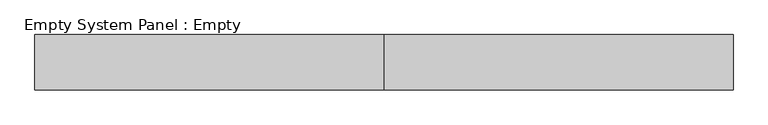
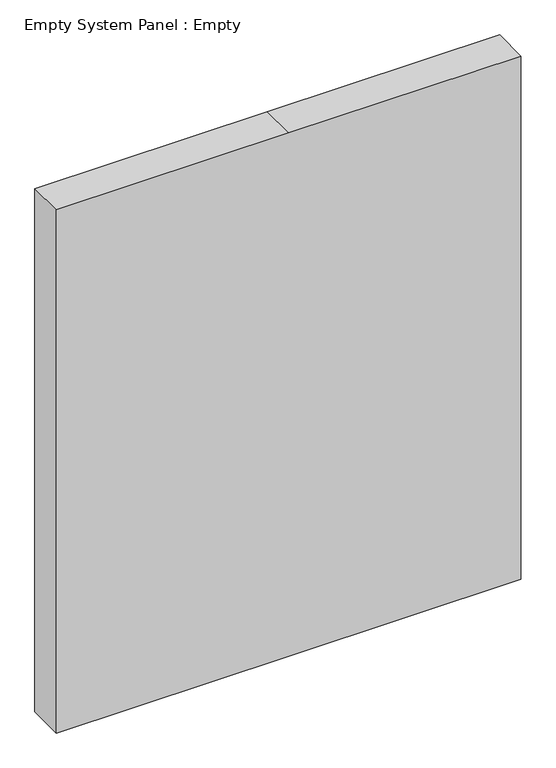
"""IFC4 building model written with IfcOpenShell, lengths in millimetres: plate geometry, Empty System Panel : Empty."""

from ifc_helpers import new_model, si_unit, frame, origin, place, context, project, spatial, polyline, outline, extrude, source, transform, mapped, element, save


def empty_system_panel_empty_d80a8f59(model_context):
    return source(origin(), model_context, "Body", "SweptSolid", [
        extrude(outline(polyline([(0.0, -630.0), (0.0, 0.0), (0.0, 630.0), (1500.0, 630.0), (1500.0, 0.0), (1500.0, -630.0), (0.0, -630.0)])), frame((0.0, -150.0, 0.0), z_axis=(0.0, 1.0, 0.0), x_axis=(0.0, 0.0, 1.0)), (0.0, 0.0, 1.0), 100.0),
    ])


if __name__ == "__main__":
    model = new_model("IFC4")
    model_context = context("Model", 3, world=origin())
    ifc_project = project(units=[si_unit("LENGTHUNIT", "METRE", prefix="MILLI")], contexts=[model_context])
    site = spatial("IfcSite", under=ifc_project)
    building = spatial("IfcBuilding", under=site)
    placement = place(None, origin())
    empty_system_panel_empty_shape = empty_system_panel_empty_d80a8f59(model_context)
    element("IfcPlate", 1, ObjectType="Empty System Panel : Empty", at=placement, inside=building, context=model_context, shape_type="MappedRepresentation", body=[
        mapped(empty_system_panel_empty_shape, transform((0.0, 0.0, 0.0), x_axis=(1.0, 0.0, 0.0), y_axis=(0.0, 1.0, 0.0), z_axis=(0.0, 0.0, 1.0))),
    ])
    save(model, "model.ifc")
